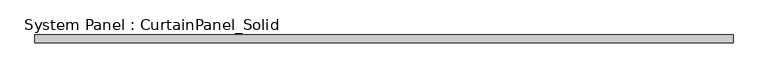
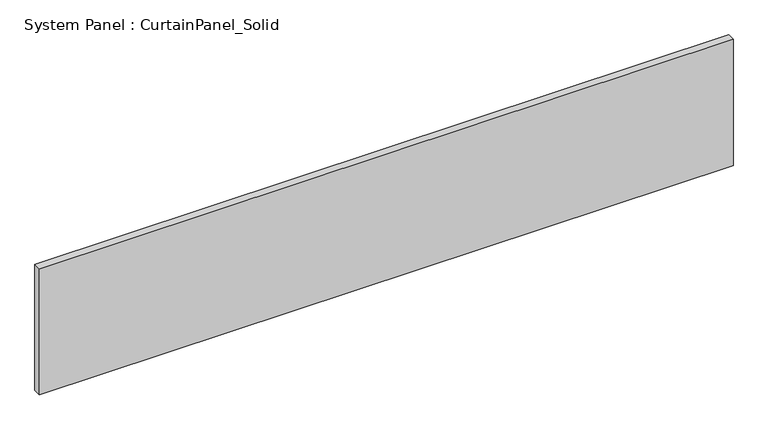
"""IFC4 building model written with IfcOpenShell, lengths in millimetres: plate geometry, System Panel : CurtainPanel_Solid."""

from ifc_helpers import new_model, si_unit, origin, origin_with_axes, place, context, project, spatial, polyline, outline, extrude, source, transform, mapped, element, save


def system_panel_curtainpanel_solid_bd7018df(model_context):
    return source(origin(), model_context, "Body", "SweptSolid", [
        extrude(outline(polyline([(1138.6000001, -12.5), (-1138.6000001, -12.5), (-1138.6000001, 12.5), (1138.6000001, 12.5), (1138.6000001, -12.5)])), origin_with_axes(), (0.0, 0.0, 1.0), 438.3),
    ])


if __name__ == "__main__":
    model = new_model("IFC4")
    model_context = context("Model", 3, world=origin())
    ifc_project = project(units=[si_unit("LENGTHUNIT", "METRE", prefix="MILLI")], contexts=[model_context])
    site = spatial("IfcSite", under=ifc_project)
    building = spatial("IfcBuilding", under=site)
    placement = place(None, origin())
    system_panel_curtainpanel_solid_shape = system_panel_curtainpanel_solid_bd7018df(model_context)
    element("IfcPlate", 1, ObjectType="System Panel : CurtainPanel_Solid", at=placement, inside=building, context=model_context, shape_type="MappedRepresentation", body=[
        mapped(system_panel_curtainpanel_solid_shape, transform((0.0, 0.0, 0.0), x_axis=(1.0, 0.0, 0.0), y_axis=(0.0, 1.0, 0.0), z_axis=(0.0, 0.0, 1.0))),
    ])
    save(model, "model.ifc")
